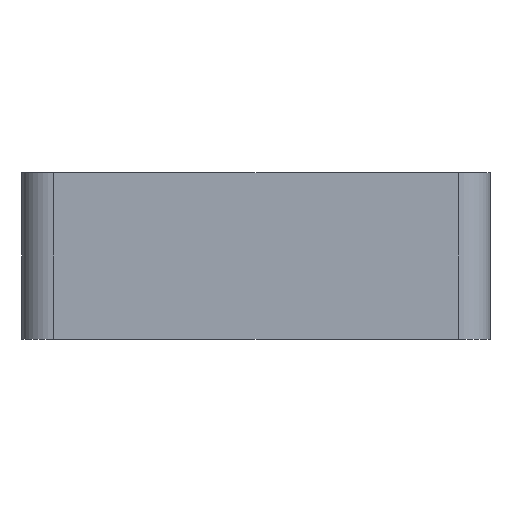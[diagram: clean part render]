
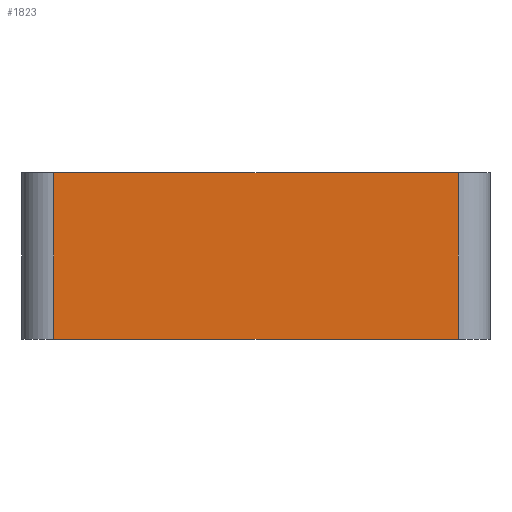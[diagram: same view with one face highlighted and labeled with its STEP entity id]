
A CAD part, front view. The second image highlights one B-rep face of the part: STEP entity #1823.
In plain terms, the highlighted planar face has unit normal (0, -1, 0).
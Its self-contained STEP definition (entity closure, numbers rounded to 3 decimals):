
#44 = PLANE('',#45);
#45 = AXIS2_PLACEMENT_3D('',#46,#47,#48);
#46 = CARTESIAN_POINT('',(0.,0.,26.4));
#47 = DIRECTION('',(0.,0.,1.));
#48 = DIRECTION('',(1.,0.,0.));
#72 = CYLINDRICAL_SURFACE('',#73,5.);
#73 = AXIS2_PLACEMENT_3D('',#74,#75,#76);
#74 = CARTESIAN_POINT('',(5.,5.,0.));
#75 = DIRECTION('',(0.,0.,1.));
#76 = DIRECTION('',(-1.,-0.,0.));
#100 = PLANE('',#101);
#101 = AXIS2_PLACEMENT_3D('',#102,#103,#104);
#102 = CARTESIAN_POINT('',(0.,0.,0.));
#103 = DIRECTION('',(0.,0.,1.));
#104 = DIRECTION('',(1.,0.,0.));
#250 = VERTEX_POINT('',#251);
#251 = CARTESIAN_POINT('',(5.,0.,26.4));
#273 = EDGE_CURVE('',#250,#274,#276,.T.);
#274 = VERTEX_POINT('',#275);
#275 = CARTESIAN_POINT('',(69.,0.,26.4));
#276 = SURFACE_CURVE('',#277,(#281,#288),.PCURVE_S1.);
#277 = LINE('',#278,#279);
#278 = CARTESIAN_POINT('',(0.,0.,26.4));
#279 = VECTOR('',#280,1.);
#280 = DIRECTION('',(1.,0.,0.));
#281 = PCURVE('',#44,#282);
#282 = DEFINITIONAL_REPRESENTATION('',(#283),#287);
#283 = LINE('',#284,#285);
#284 = CARTESIAN_POINT('',(0.,0.));
#285 = VECTOR('',#286,1.);
#286 = DIRECTION('',(1.,0.));
#287 = ( GEOMETRIC_REPRESENTATION_CONTEXT(2) 
PARAMETRIC_REPRESENTATION_CONTEXT() REPRESENTATION_CONTEXT('2D SPACE',''
  ) );
#288 = PCURVE('',#289,#294);
#289 = PLANE('',#290);
#290 = AXIS2_PLACEMENT_3D('',#291,#292,#293);
#291 = CARTESIAN_POINT('',(0.,0.,0.));
#292 = DIRECTION('',(0.,1.,0.));
#293 = DIRECTION('',(0.,0.,1.));
#294 = DEFINITIONAL_REPRESENTATION('',(#295),#299);
#295 = LINE('',#296,#297);
#296 = CARTESIAN_POINT('',(26.4,0.));
#297 = VECTOR('',#298,1.);
#298 = DIRECTION('',(0.,1.));
#299 = ( GEOMETRIC_REPRESENTATION_CONTEXT(2) 
PARAMETRIC_REPRESENTATION_CONTEXT() REPRESENTATION_CONTEXT('2D SPACE',''
  ) );
#322 = CYLINDRICAL_SURFACE('',#323,5.);
#323 = AXIS2_PLACEMENT_3D('',#324,#325,#326);
#324 = CARTESIAN_POINT('',(69.,5.,0.));
#325 = DIRECTION('',(0.,0.,1.));
#326 = DIRECTION('',(1.,0.,-0.));
#925 = VERTEX_POINT('',#926);
#926 = CARTESIAN_POINT('',(5.,0.,0.));
#948 = EDGE_CURVE('',#925,#949,#951,.T.);
#949 = VERTEX_POINT('',#950);
#950 = CARTESIAN_POINT('',(69.,0.,0.));
#951 = SURFACE_CURVE('',#952,(#956,#963),.PCURVE_S1.);
#952 = LINE('',#953,#954);
#953 = CARTESIAN_POINT('',(0.,0.,0.));
#954 = VECTOR('',#955,1.);
#955 = DIRECTION('',(1.,0.,0.));
#956 = PCURVE('',#100,#957);
#957 = DEFINITIONAL_REPRESENTATION('',(#958),#962);
#958 = LINE('',#959,#960);
#959 = CARTESIAN_POINT('',(0.,0.));
#960 = VECTOR('',#961,1.);
#961 = DIRECTION('',(1.,0.));
#962 = ( GEOMETRIC_REPRESENTATION_CONTEXT(2) 
PARAMETRIC_REPRESENTATION_CONTEXT() REPRESENTATION_CONTEXT('2D SPACE',''
  ) );
#963 = PCURVE('',#289,#964);
#964 = DEFINITIONAL_REPRESENTATION('',(#965),#969);
#965 = LINE('',#966,#967);
#966 = CARTESIAN_POINT('',(0.,0.));
#967 = VECTOR('',#968,1.);
#968 = DIRECTION('',(0.,1.));
#969 = ( GEOMETRIC_REPRESENTATION_CONTEXT(2) 
PARAMETRIC_REPRESENTATION_CONTEXT() REPRESENTATION_CONTEXT('2D SPACE',''
  ) );
#1072 = EDGE_CURVE('',#925,#250,#1073,.T.);
#1073 = SURFACE_CURVE('',#1074,(#1078,#1085),.PCURVE_S1.);
#1074 = LINE('',#1075,#1076);
#1075 = CARTESIAN_POINT('',(5.,0.,0.));
#1076 = VECTOR('',#1077,1.);
#1077 = DIRECTION('',(0.,0.,1.));
#1078 = PCURVE('',#72,#1079);
#1079 = DEFINITIONAL_REPRESENTATION('',(#1080),#1084);
#1080 = LINE('',#1081,#1082);
#1081 = CARTESIAN_POINT('',(1.571,0.));
#1082 = VECTOR('',#1083,1.);
#1083 = DIRECTION('',(0.,1.));
#1084 = ( GEOMETRIC_REPRESENTATION_CONTEXT(2) 
PARAMETRIC_REPRESENTATION_CONTEXT() REPRESENTATION_CONTEXT('2D SPACE',''
  ) );
#1085 = PCURVE('',#289,#1086);
#1086 = DEFINITIONAL_REPRESENTATION('',(#1087),#1091);
#1087 = LINE('',#1088,#1089);
#1088 = CARTESIAN_POINT('',(0.,5.));
#1089 = VECTOR('',#1090,1.);
#1090 = DIRECTION('',(1.,0.));
#1091 = ( GEOMETRIC_REPRESENTATION_CONTEXT(2) 
PARAMETRIC_REPRESENTATION_CONTEXT() REPRESENTATION_CONTEXT('2D SPACE',''
  ) );
#1801 = EDGE_CURVE('',#949,#274,#1802,.T.);
#1802 = SURFACE_CURVE('',#1803,(#1807,#1814),.PCURVE_S1.);
#1803 = LINE('',#1804,#1805);
#1804 = CARTESIAN_POINT('',(69.,0.,0.));
#1805 = VECTOR('',#1806,1.);
#1806 = DIRECTION('',(0.,0.,1.));
#1807 = PCURVE('',#322,#1808);
#1808 = DEFINITIONAL_REPRESENTATION('',(#1809),#1813);
#1809 = LINE('',#1810,#1811);
#1810 = CARTESIAN_POINT('',(-1.571,0.));
#1811 = VECTOR('',#1812,1.);
#1812 = DIRECTION('',(-0.,1.));
#1813 = ( GEOMETRIC_REPRESENTATION_CONTEXT(2) 
PARAMETRIC_REPRESENTATION_CONTEXT() REPRESENTATION_CONTEXT('2D SPACE',''
  ) );
#1814 = PCURVE('',#289,#1815);
#1815 = DEFINITIONAL_REPRESENTATION('',(#1816),#1820);
#1816 = LINE('',#1817,#1818);
#1817 = CARTESIAN_POINT('',(0.,69.));
#1818 = VECTOR('',#1819,1.);
#1819 = DIRECTION('',(1.,0.));
#1820 = ( GEOMETRIC_REPRESENTATION_CONTEXT(2) 
PARAMETRIC_REPRESENTATION_CONTEXT() REPRESENTATION_CONTEXT('2D SPACE',''
  ) );
#1823 = ADVANCED_FACE('',(#1824),#289,.F.);
#1824 = FACE_BOUND('',#1825,.F.);
#1825 = EDGE_LOOP('',(#1826,#1827,#1828,#1829));
#1826 = ORIENTED_EDGE('',*,*,#948,.F.);
#1827 = ORIENTED_EDGE('',*,*,#1072,.T.);
#1828 = ORIENTED_EDGE('',*,*,#273,.T.);
#1829 = ORIENTED_EDGE('',*,*,#1801,.F.);
